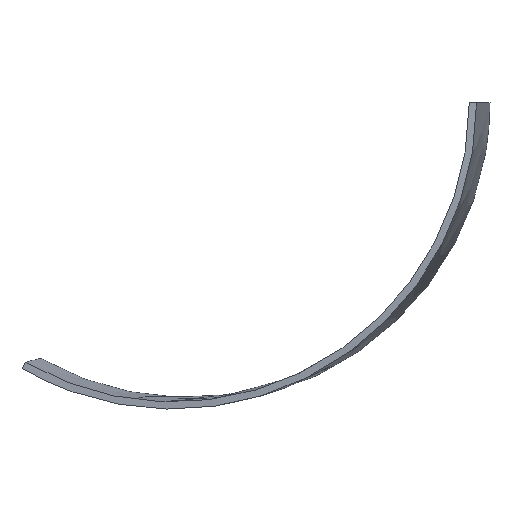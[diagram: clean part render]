
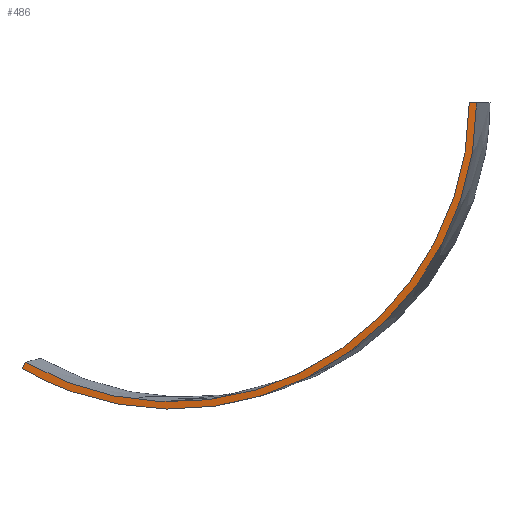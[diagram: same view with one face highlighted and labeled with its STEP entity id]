
A CAD part, front view. The second image highlights one B-rep face of the part: STEP entity #486.
In plain terms, the highlighted free-form (B-spline) face has degree [1, 3] with [2, 10] control points.
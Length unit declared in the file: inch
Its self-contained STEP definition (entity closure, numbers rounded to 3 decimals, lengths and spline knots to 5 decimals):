
#4 = VERTEX_POINT ( 'NONE', #106 ) ;
#9 = B_SPLINE_CURVE_WITH_KNOTS ( 'NONE', 3,
 ( #370, #176, #221, #497, #17, #190, #473, #303, #27, #429 ),
 .UNSPECIFIED., .F., .F.,
 ( 4, 2, 2, 2, 4 ),
 ( 0., 0.25, 0.5, 0.75, 1. ),
 .UNSPECIFIED. ) ;
#10 = EDGE_CURVE ( 'NONE', #67, #283, #364, .T. ) ;
#11 = CARTESIAN_POINT ( 'NONE',  ( 138.97808, -21.95693, -24.74338 ) ) ;
#15 = CARTESIAN_POINT ( 'NONE',  ( 107.9568, -17.09868, -29.63007 ) ) ;
#17 = CARTESIAN_POINT ( 'NONE',  ( 138.97808, -21.95693, -24.74338 ) ) ;
#26 = CARTESIAN_POINT ( 'NONE',  ( 129.2062, -20.46425, -29.58674 ) ) ;
#27 = CARTESIAN_POINT ( 'NONE',  ( 107.70141, -17.05809, -30.34622 ) ) ;
#33 = CARTESIAN_POINT ( 'NONE',  ( 149.17156, -23.62645, -0.125 ) ) ;
#36 = B_SPLINE_CURVE_WITH_KNOTS ( 'NONE', 1,
 ( #33, #189 ),
 .UNSPECIFIED., .F., .F.,
 ( 2, 2 ),
 ( 0., 1. ),
 .UNSPECIFIED. ) ;
#60 = CARTESIAN_POINT ( 'NONE',  ( 129.4701, -20.46786, -30.30091 ) ) ;
#62 = CARTESIAN_POINT ( 'NONE',  ( 138.48821, -21.93438, -24.16097 ) ) ;
#65 = CARTESIAN_POINT ( 'NONE',  ( 147.7235, -23.3971, -10.87634 ) ) ;
#67 = VERTEX_POINT ( 'NONE', #270 ) ;
#72 = EDGE_CURVE ( 'NONE', #415, #67, #387, .T. ) ;
#90 = EDGE_CURVE ( 'NONE', #415, #4, #36, .T. ) ;
#96 = B_SPLINE_SURFACE_WITH_KNOTS ( 'NONE', 1, 3, ( 
 ( #373, #385, #340, #466, #60, #11, #502, #147, #137, #453 ),
 ( #493, #15, #380, #448, #253, #62, #178, #65, #257, #418 ) ),
 .UNSPECIFIED., .F., .F., .F.,
 ( 2, 2 ),
 ( 4, 2, 2, 2, 4 ),
 ( 0., 1. ),
 ( 0., 0.25, 0.5, 0.75, 1. ),
 .UNSPECIFIED. ) ;
#106 = CARTESIAN_POINT ( 'NONE',  ( 149.92025, -23.67052, -0.12801 ) ) ;
#121 = CARTESIAN_POINT ( 'NONE',  ( 107.9568, -17.09868, -29.63007 ) ) ;
#137 = CARTESIAN_POINT ( 'NONE',  ( 149.89815, -23.66706, -5.68421 ) ) ;
#147 = CARTESIAN_POINT ( 'NONE',  ( 148.43724, -23.43828, -11.13799 ) ) ;
#176 = CARTESIAN_POINT ( 'NONE',  ( 149.89815, -23.66706, -5.68421 ) ) ;
#178 = CARTESIAN_POINT ( 'NONE',  ( 142.34584, -22.54537, -20.2631 ) ) ;
#179 = EDGE_LOOP ( 'NONE', ( #333, #222, #296, #254 ) ) ;
#189 = CARTESIAN_POINT ( 'NONE',  ( 149.92025, -23.67052, -0.12801 ) ) ;
#190 = CARTESIAN_POINT ( 'NONE',  ( 129.4701, -20.46786, -30.30091 ) ) ;
#196 = CARTESIAN_POINT ( 'NONE',  ( 123.94329, -19.63069, -31.02026 ) ) ;
#220 = CARTESIAN_POINT ( 'NONE',  ( 103.30504, -16.36191, -26.93613 ) ) ;
#221 = CARTESIAN_POINT ( 'NONE',  ( 148.43724, -23.43828, -11.13799 ) ) ;
#222 = ORIENTED_EDGE ( 'NONE', *, *, #72, .T. ) ;
#227 = CARTESIAN_POINT ( 'NONE',  ( 149.14997, -23.62303, -5.55072 ) ) ;
#228 = CARTESIAN_POINT ( 'NONE',  ( 149.17156, -23.62645, -0.125 ) ) ;
#233 = CARTESIAN_POINT ( 'NONE',  ( 113.22537, -17.93314, -31.04212 ) ) ;
#253 = CARTESIAN_POINT ( 'NONE',  ( 129.2062, -20.46425, -29.58674 ) ) ;
#254 = ORIENTED_EDGE ( 'NONE', *, *, #357, .F. ) ;
#257 = CARTESIAN_POINT ( 'NONE',  ( 149.14997, -23.62303, -5.55072 ) ) ;
#270 = CARTESIAN_POINT ( 'NONE',  ( 103.30504, -16.36191, -26.93613 ) ) ;
#283 = VERTEX_POINT ( 'NONE', #299 ) ;
#296 = ORIENTED_EDGE ( 'NONE', *, *, #10, .T. ) ;
#299 = CARTESIAN_POINT ( 'NONE',  ( 102.93604, -16.31143, -27.58712 ) ) ;
#303 = CARTESIAN_POINT ( 'NONE',  ( 113.09887, -17.90363, -31.79238 ) ) ;
#333 = ORIENTED_EDGE ( 'NONE', *, *, #90, .F. ) ;
#340 = CARTESIAN_POINT ( 'NONE',  ( 113.09887, -17.90363, -31.79238 ) ) ;
#341 = CARTESIAN_POINT ( 'NONE',  ( 149.17156, -23.62645, -0.125 ) ) ;
#357 = EDGE_CURVE ( 'NONE', #4, #283, #9, .T. ) ;
#364 = B_SPLINE_CURVE_WITH_KNOTS ( 'NONE', 1,
 ( #220, #375 ),
 .UNSPECIFIED., .F., .F.,
 ( 2, 2 ),
 ( 0., 1. ),
 .UNSPECIFIED. ) ;
#370 = CARTESIAN_POINT ( 'NONE',  ( 149.92025, -23.67052, -0.12801 ) ) ;
#373 = CARTESIAN_POINT ( 'NONE',  ( 102.93604, -16.31143, -27.58712 ) ) ;
#375 = CARTESIAN_POINT ( 'NONE',  ( 102.93604, -16.31143, -27.58712 ) ) ;
#380 = CARTESIAN_POINT ( 'NONE',  ( 113.22537, -17.93314, -31.04212 ) ) ;
#383 = CARTESIAN_POINT ( 'NONE',  ( 142.34584, -22.54537, -20.2631 ) ) ;
#385 = CARTESIAN_POINT ( 'NONE',  ( 107.70142, -17.05809, -30.34623 ) ) ;
#386 = CARTESIAN_POINT ( 'NONE',  ( 138.48821, -21.93438, -24.16097 ) ) ;
#387 = B_SPLINE_CURVE_WITH_KNOTS ( 'NONE', 3,
 ( #341, #227, #471, #383, #386, #26, #196, #233, #121, #390 ),
 .UNSPECIFIED., .F., .F.,
 ( 4, 2, 2, 2, 4 ),
 ( 0., 0.25, 0.5, 0.75, 1. ),
 .UNSPECIFIED. ) ;
#390 = CARTESIAN_POINT ( 'NONE',  ( 103.30504, -16.36191, -26.93613 ) ) ;
#415 = VERTEX_POINT ( 'NONE', #228 ) ;
#418 = CARTESIAN_POINT ( 'NONE',  ( 149.17156, -23.62645, -0.125 ) ) ;
#424 = FACE_OUTER_BOUND ( 'NONE', #179, .T. ) ;
#429 = CARTESIAN_POINT ( 'NONE',  ( 102.93604, -16.31143, -27.58712 ) ) ;
#448 = CARTESIAN_POINT ( 'NONE',  ( 123.94329, -19.63069, -31.02026 ) ) ;
#453 = CARTESIAN_POINT ( 'NONE',  ( 149.92025, -23.67052, -0.12801 ) ) ;
#466 = CARTESIAN_POINT ( 'NONE',  ( 124.07867, -19.62347, -31.76952 ) ) ;
#471 = CARTESIAN_POINT ( 'NONE',  ( 147.7235, -23.3971, -10.87634 ) ) ;
#473 = CARTESIAN_POINT ( 'NONE',  ( 124.07867, -19.62347, -31.76952 ) ) ;
#486 = ADVANCED_FACE ( 'NONE', ( #424 ), #96, .F. ) ;
#493 = CARTESIAN_POINT ( 'NONE',  ( 103.30504, -16.36191, -26.93613 ) ) ;
#497 = CARTESIAN_POINT ( 'NONE',  ( 142.92936, -22.57571, -20.75113 ) ) ;
#502 = CARTESIAN_POINT ( 'NONE',  ( 142.92936, -22.57571, -20.75113 ) ) ;
